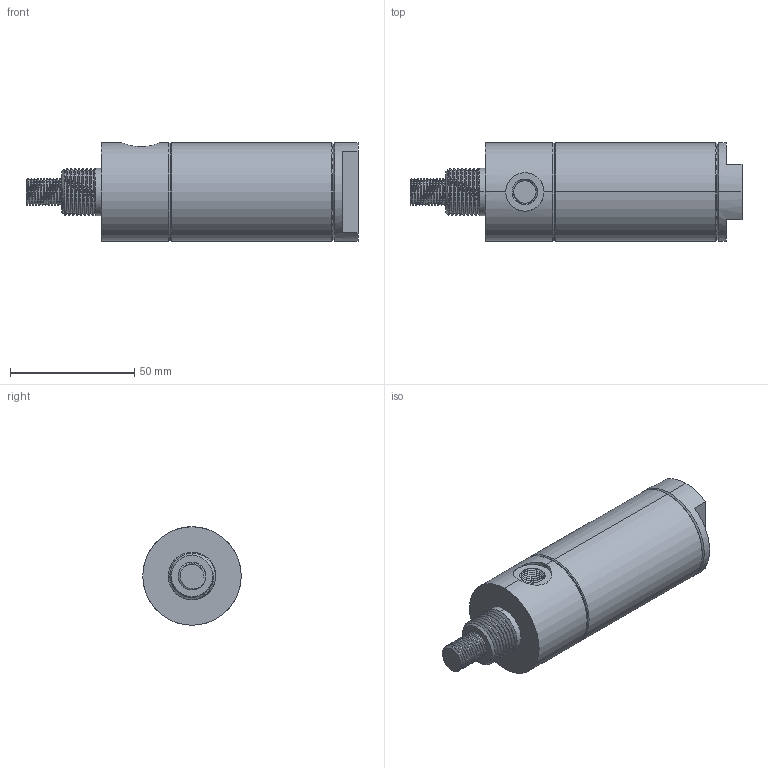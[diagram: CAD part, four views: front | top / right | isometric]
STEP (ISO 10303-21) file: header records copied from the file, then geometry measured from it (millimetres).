
FILE_DESCRIPTION (( 'STEP AP203' ), '1' );
FILE_NAME ('McMaster - 6498K209 Altered.STEP', '2020-03-02T21:03:58', ( '' ), ( '' ), 'SwSTEP 2.0', 'SolidWorks 2017', '' );
FILE_SCHEMA (( 'CONFIG_CONTROL_DESIGN' ));
Length unit declared in the file: inch
Products named in the file (1): McMaster - 6498K209 Altered
Bounding box: 133.6 x 39.62 x 39.62 mm (x, y, z)
Volume: 130113.4 mm3; surface area: 19053.1 mm2
Topology: 2 solids, 2 shells, 134 faces, 354 edges, 229 vertices
Faces by surface type: cylinder 81, plane 21, cone 20, bspline 12
Entity records: 11814 total; most frequent: CARTESIAN_POINT 8936, ORIENTED_EDGE 708, DIRECTION 471, EDGE_CURVE 354, VERTEX_POINT 229, AXIS2_PLACEMENT_3D 179, EDGE_LOOP 139, FACE_OUTER_BOUND 134
